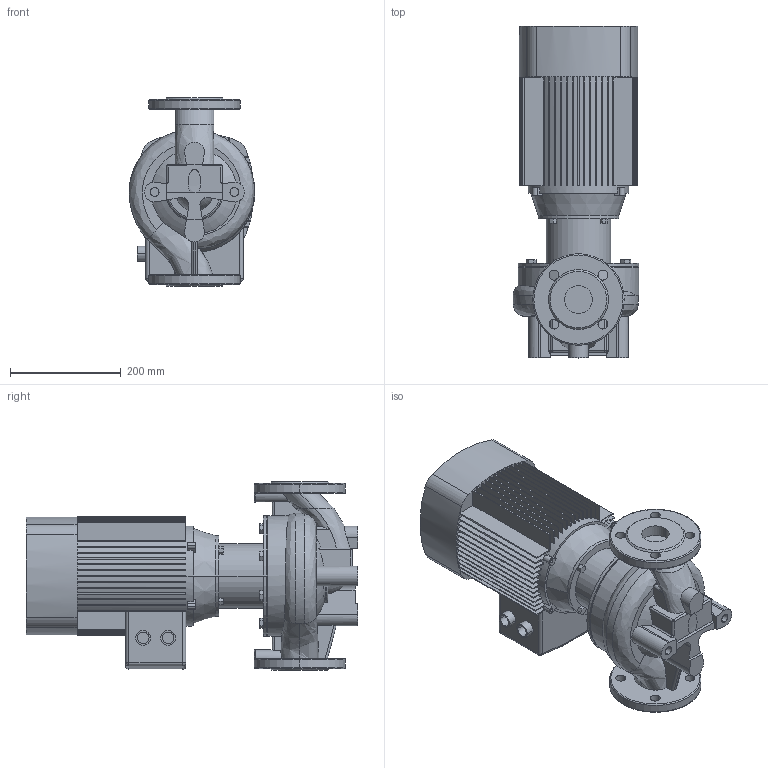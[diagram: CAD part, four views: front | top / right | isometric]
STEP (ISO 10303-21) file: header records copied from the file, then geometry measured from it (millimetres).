
FILE_DESCRIPTION (( 'STEP AP203' ), '1' );
FILE_NAME ('TD50-28G_2.STEP', '2022-05-02T14:56:11', ( '' ), ( '' ), 'SwSTEP 2.0', 'SolidWorks 2019', '' );
FILE_SCHEMA (( 'CONFIG_CONTROL_DESIGN' ));
Length unit declared in the file: millimetre
Products named in the file (4): Fon_50_TD50-28G_2; Pr_ch 50_TD50-28G_2; TD50-28G_2; ED_B14_YE2-112M-2 (4)
Assembly tree (3 placements, depth 2):
  TD50-28G_2
    Pr_ch 50_TD50-28G_2
    Fon_50_TD50-28G_2
    ED_B14_YE2-112M-2 (4)
Bounding box: 227 x 599 x 340 mm (x, y, z)
Volume: 17842684.6 mm3; surface area: 1193703.1 mm2
Topology: 3 solids, 3 shells, 643 faces, 1751 edges, 1149 vertices
Faces by surface type: plane 422, cylinder 155, bspline 25, torus 24, cone 11, sphere 6
Entity records: 26072 total; most frequent: CARTESIAN_POINT 9252, ORIENTED_EDGE 3498, DIRECTION 3396, EDGE_CURVE 1749, AXIS2_PLACEMENT_3D 1192, VERTEX_POINT 1149, VECTOR 1012, LINE 1012
